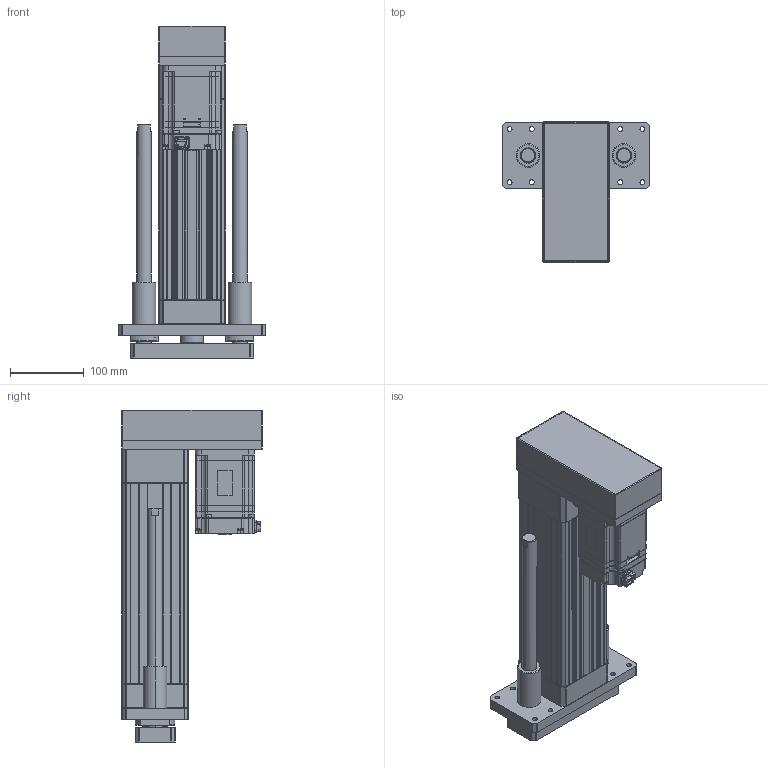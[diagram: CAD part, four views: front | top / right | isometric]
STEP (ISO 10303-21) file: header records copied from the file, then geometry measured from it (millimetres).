
FILE_DESCRIPTION (( 'STEP AP203' ), '1' );
FILE_NAME ('ANS090R-GP150-05(10)(20)-W75.STEP', '2019-03-02T08:53:08', ( 'user' ), ( '' ), 'SwSTEP 2.0', 'SolidWorks 2013', '' );
FILE_SCHEMA (( 'CONFIG_CONTROL_DESIGN' ));
Length unit declared in the file: millimetre
Products named in the file (4): SGMJV_08A_A21; ANS090 ROD ST150-G; ANS090R-GP150-05(10)(20)-W75; ANS090R GP150 VER2
Assembly tree (3 placements, depth 2):
  ANS090R-GP150-05(10)(20)-W75
    ANS090R GP150 VER2
    SGMJV_08A_A21
    ANS090 ROD ST150-G
Bounding box: 200 x 190 x 450 mm (x, y, z)
Volume: 3140816.3 mm3; surface area: 584964.1 mm2
Topology: 3 solids, 7 shells, 1393 faces, 3620 edges, 2322 vertices
Faces by surface type: plane 779, cylinder 454, cone 144, sphere 8, torus 4, bspline 4
Entity records: 43156 total; most frequent: CARTESIAN_POINT 7975, DIRECTION 7322, ORIENTED_EDGE 7200, EDGE_CURVE 3600, AXIS2_PLACEMENT_3D 2441, VECTOR 2440, LINE 2440, VERTEX_POINT 2322
